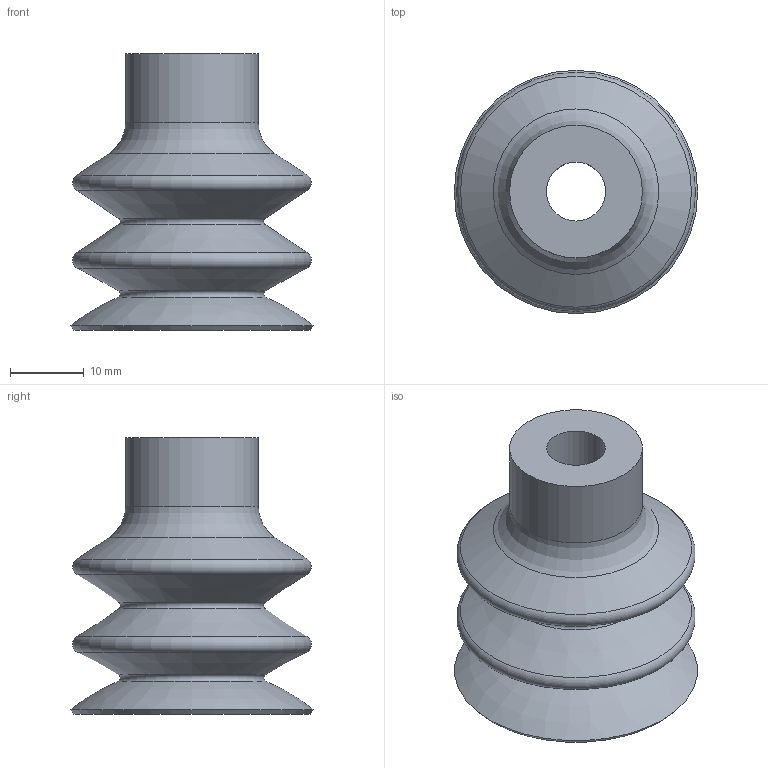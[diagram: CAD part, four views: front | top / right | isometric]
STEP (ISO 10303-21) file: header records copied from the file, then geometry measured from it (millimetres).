
FILE_DESCRIPTION(('STEP AP214'),'1');
FILE_NAME('CA.08.33.D32.stp','2019-04-17T13:35:10',(' '),(' '),'Spatial InterOp 3D',' ',' ');
FILE_SCHEMA(('AUTOMOTIVE_DESIGN { 1 0 10303 214 1 1 1 1 }'));
Length unit declared in the file: millimetre
Products named in the file (1): CA.08.33.D32
Bounding box: 32.99 x 32.99 x 37.5 mm (x, y, z)
Volume: 7626 mm3; surface area: 8052 mm2
Topology: 1 solids, 1 shells, 25 faces, 47 edges, 25 vertices
Faces by surface type: torus 9, cone 8, cylinder 3, plane 3, bspline 2
Full cylindrical faces by diameter (mm): 8.003 x1, 15.003 x1, 18.003 x1
Entity records: 770 total; most frequent: CARTESIAN_POINT 130, DIRECTION 98, EDGE_LOOP 50, ORIENTED_EDGE 50, AXIS2_PLACEMENT_3D 49, FACE_OUTER_BOUND 39, STYLED_ITEM 25, PRESENTATION_STYLE_ASSIGNMENT 25
